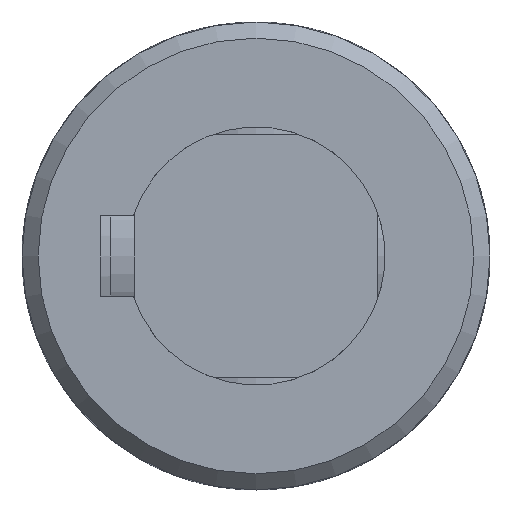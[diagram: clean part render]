
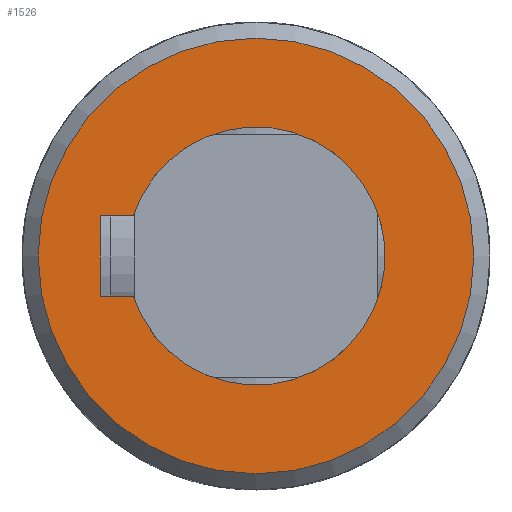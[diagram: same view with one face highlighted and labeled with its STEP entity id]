
A CAD part, front view. The second image highlights one B-rep face of the part: STEP entity #1526.
In plain terms, the highlighted planar face has unit normal (0, -1, 0).
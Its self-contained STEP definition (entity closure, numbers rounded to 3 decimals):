
#107=LINE('',#2968,#162);
#110=LINE('',#2985,#165);
#112=LINE('',#2991,#167);
#162=VECTOR('',#1997,4.101);
#165=VECTOR('',#2002,10.);
#167=VECTOR('',#2008,4.101);
#217=PLANE('',#1681);
#351=FACE_BOUND('',#562,.T.);
#430=FACE_OUTER_BOUND('',#561,.T.);
#561=EDGE_LOOP('',(#1342));
#562=EDGE_LOOP('',(#1343,#1344,#1345,#1346));
#642=CIRCLE('',#1676,16.);
#644=CIRCLE('',#1679,27.);
#768=VERTEX_POINT('',#2965);
#769=VERTEX_POINT('',#2967);
#771=VERTEX_POINT('',#2983);
#773=VERTEX_POINT('',#2989);
#779=VERTEX_POINT('',#3065);
#957=EDGE_CURVE('',#769,#768,#107,.T.);
#961=EDGE_CURVE('',#768,#771,#110,.T.);
#964=EDGE_CURVE('',#771,#773,#112,.T.);
#970=EDGE_CURVE('',#773,#769,#642,.T.);
#972=EDGE_CURVE('',#779,#779,#644,.T.);
#1342=ORIENTED_EDGE('',*,*,#972,.F.);
#1343=ORIENTED_EDGE('',*,*,#957,.T.);
#1344=ORIENTED_EDGE('',*,*,#961,.T.);
#1345=ORIENTED_EDGE('',*,*,#964,.T.);
#1346=ORIENTED_EDGE('',*,*,#970,.T.);
#1526=ADVANCED_FACE('',(#430,#351),#217,.F.);
#1676=AXIS2_PLACEMENT_3D('',#3061,#2017,#2018);
#1679=AXIS2_PLACEMENT_3D('',#3066,#2023,#2024);
#1681=AXIS2_PLACEMENT_3D('',#3274,#2031,#2032);
#1997=DIRECTION('',(0.,0.,-1.));
#2002=DIRECTION('',(-1.,0.,0.));
#2008=DIRECTION('',(0.,0.,1.));
#2017=DIRECTION('center_axis',(0.,1.,0.));
#2018=DIRECTION('ref_axis',(-0.313,0.,0.95));
#2023=DIRECTION('center_axis',(0.,1.,0.));
#2024=DIRECTION('ref_axis',(1.,0.,0.));
#2031=DIRECTION('center_axis',(0.,1.,0.));
#2032=DIRECTION('ref_axis',(0.,0.,1.));
#2965=CARTESIAN_POINT('',(5.,-79.5,-19.3));
#2967=CARTESIAN_POINT('',(5.,-79.5,-15.199));
#2968=CARTESIAN_POINT('',(5.,-79.5,-7.599));
#2983=CARTESIAN_POINT('',(-5.,-79.5,-19.3));
#2985=CARTESIAN_POINT('',(2.5,-79.5,-19.3));
#2989=CARTESIAN_POINT('',(-5.,-79.5,-15.199));
#2991=CARTESIAN_POINT('',(-5.,-79.5,-9.65));
#3061=CARTESIAN_POINT('Origin',(0.,-79.5,0.));
#3065=CARTESIAN_POINT('',(-27.,-79.5,0.));
#3066=CARTESIAN_POINT('Origin',(0.,-79.5,0.));
#3274=CARTESIAN_POINT('Origin',(0.,-79.5,0.));
